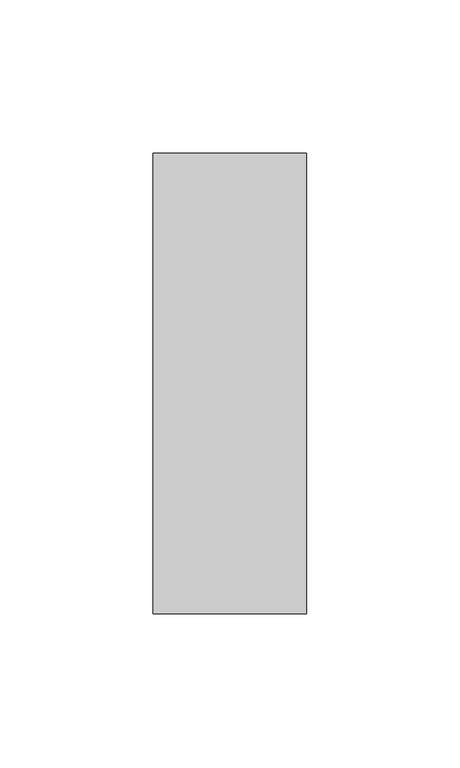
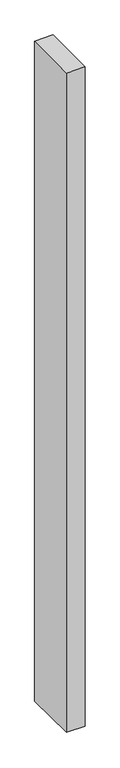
"""IFC4 building model written with IfcOpenShell, lengths in millimetres: member geometry, Прямоугольный импост : 50 x 150 мм."""

from ifc_helpers import new_model, si_unit, origin, place, context, project, spatial, faceted_brep, source, transform, mapped, element, save


def member_8c1d22b5(model_context):
    return source(origin(), model_context, "Body", "Brep", [
        faceted_brep([(-25.0, 75.0, -0.1889893), (25.0, 75.0, 0.7330735), (25.0, 75.0, -1896.4818469), (-25.0, 75.0, -1895.5501397), (-25.0, -75.0, -0.7330735), (-25.0, -75.0, -1893.6019738), (25.0, -75.0, 0.1889893), (25.0, -75.0, -1894.5336811)], [[[0, 1, 2, 3]], [[4, 0, 3, 5]], [[6, 4, 5, 7]], [[1, 6, 7, 2]], [[1, 0, 4, 6]], [[2, 7, 5, 3]]]),
    ])


if __name__ == "__main__":
    model = new_model("IFC4")
    model_context = context("Model", 3, world=origin())
    ifc_project = project(units=[si_unit("LENGTHUNIT", "METRE", prefix="MILLI")], contexts=[model_context])
    site = spatial("IfcSite", under=ifc_project)
    building = spatial("IfcBuilding", under=site)
    placement = place(None, origin())
    member_shape = member_8c1d22b5(model_context)
    element("IfcMember", 1, ObjectType="Прямоугольный импост : 50 x 150 мм", at=placement, inside=building, context=model_context, shape_type="MappedRepresentation", body=[
        mapped(member_shape, transform((0.0, 0.0, 0.0), x_axis=(1.0, 0.0, 0.0), y_axis=(0.0, 1.0, 0.0), z_axis=(0.0, 0.0, 1.0))),
    ])
    save(model, "model.ifc")
